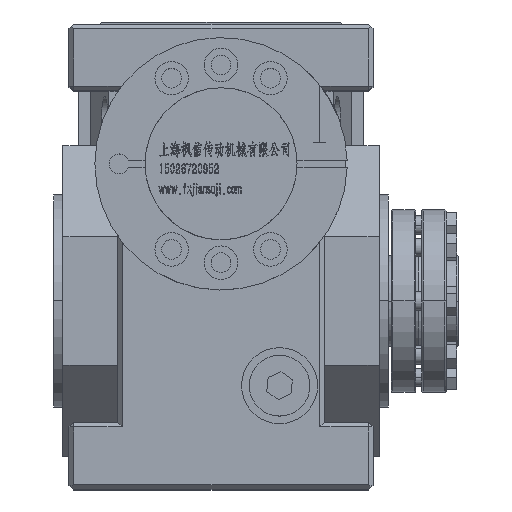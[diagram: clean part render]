
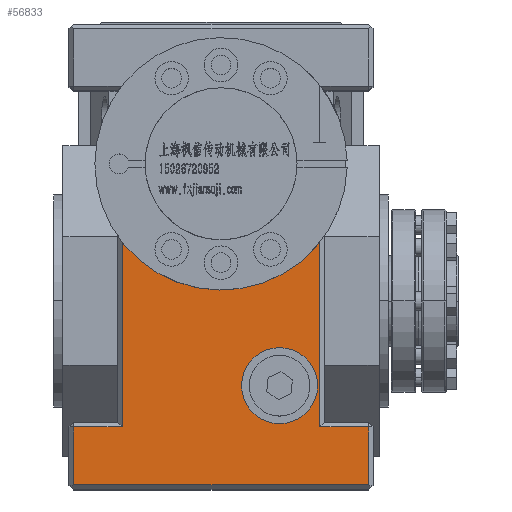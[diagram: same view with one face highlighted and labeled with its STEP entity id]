
A CAD part, top view. The second image highlights one B-rep face of the part: STEP entity #56833.
In plain terms, the highlighted planar face has unit normal (0, 0, 1).
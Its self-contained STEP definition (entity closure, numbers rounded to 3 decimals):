
#3700 = FACE_OUTER_BOUND ( 'NONE', #8288, .T. ) ;
#5028 = ORIENTED_EDGE ( 'NONE', *, *, #23677, .F. ) ;
#5403 = CARTESIAN_POINT ( 'NONE',  ( -48.5, -41.5, 68.5 ) ) ;
#8197 = CARTESIAN_POINT ( 'NONE',  ( 32.5, -41.5, 68.5 ) ) ;
#8288 = EDGE_LOOP ( 'NONE', ( #52733, #90536, #78176, #47304, #95618, #30982, #48068, #88900 ) ) ;
#9286 = CARTESIAN_POINT ( 'NONE',  ( -32.5, 20.005, 68.5 ) ) ;
#9876 = DIRECTION ( 'NONE',  ( 1., 0., 0. ) ) ;
#12553 = EDGE_CURVE ( 'NONE', #88980, #80879, #85177, .T. ) ;
#12885 = CARTESIAN_POINT ( 'NONE',  ( 50., 91., 68.5 ) ) ;
#15251 = CARTESIAN_POINT ( 'NONE',  ( 50., -41.5, 68.5 ) ) ;
#15684 = LINE ( 'NONE', #39353, #37947 ) ;
#16237 = CARTESIAN_POINT ( 'NONE',  ( -48.5, -60.5, 68.5 ) ) ;
#16596 = DIRECTION ( 'NONE',  ( 0., 0., 1. ) ) ;
#17357 = CARTESIAN_POINT ( 'NONE',  ( 50., -60.5, 68.5 ) ) ;
#18255 = AXIS2_PLACEMENT_3D ( 'NONE', #109527, #56803, #81481 ) ;
#18417 = DIRECTION ( 'NONE',  ( 0., -1., 0. ) ) ;
#20041 = AXIS2_PLACEMENT_3D ( 'NONE', #62430, #16596, #78486 ) ;
#21000 = LINE ( 'NONE', #100096, #57875 ) ;
#21054 = CIRCLE ( 'NONE', #85146, 41. ) ;
#23364 = EDGE_CURVE ( 'NONE', #102412, #59784, #52803, .T. ) ;
#23677 = EDGE_CURVE ( 'NONE', #29196, #65294, #45619, .T. ) ;
#24301 = EDGE_CURVE ( 'NONE', #65294, #29196, #109838, .T. ) ;
#24432 = DIRECTION ( 'NONE',  ( 0., -1., 0. ) ) ;
#25567 = EDGE_CURVE ( 'NONE', #113060, #55986, #42159, .T. ) ;
#28759 = CARTESIAN_POINT ( 'NONE',  ( 48.5, -60.5, 68.5 ) ) ;
#29196 = VERTEX_POINT ( 'NONE', #47518 ) ;
#30982 = ORIENTED_EDGE ( 'NONE', *, *, #92184, .F. ) ;
#36407 = CARTESIAN_POINT ( 'NONE',  ( 48.5, -41.5, 68.5 ) ) ;
#37947 = VECTOR ( 'NONE', #56569, 1000. ) ;
#39353 = CARTESIAN_POINT ( 'NONE',  ( 32.5, 22.087, 68.5 ) ) ;
#41914 = VECTOR ( 'NONE', #66289, 1000. ) ;
#42159 = LINE ( 'NONE', #83500, #60500 ) ;
#45619 = CIRCLE ( 'NONE', #20041, 12.5 ) ;
#47304 = ORIENTED_EDGE ( 'NONE', *, *, #12553, .T. ) ;
#47518 = CARTESIAN_POINT ( 'NONE',  ( 6.753, -27.925, 68.5 ) ) ;
#48068 = ORIENTED_EDGE ( 'NONE', *, *, #23364, .T. ) ;
#52733 = ORIENTED_EDGE ( 'NONE', *, *, #25567, .T. ) ;
#52803 = LINE ( 'NONE', #105556, #52843 ) ;
#52843 = VECTOR ( 'NONE', #18417, 1000. ) ;
#55986 = VERTEX_POINT ( 'NONE', #16237 ) ;
#56569 = DIRECTION ( 'NONE',  ( 0., 1., 0. ) ) ;
#56803 = DIRECTION ( 'NONE',  ( 0., 0., 1. ) ) ;
#56833 = ADVANCED_FACE ( 'NONE', ( #84516, #3700 ), #65619, .F. ) ;
#57875 = VECTOR ( 'NONE', #83470, 1000. ) ;
#59518 = CARTESIAN_POINT ( 'NONE',  ( -32.5, -41.5, 68.5 ) ) ;
#59784 = VERTEX_POINT ( 'NONE', #59518 ) ;
#60500 = VECTOR ( 'NONE', #24432, 1000. ) ;
#61078 = EDGE_LOOP ( 'NONE', ( #79536, #5028 ) ) ;
#61606 = VERTEX_POINT ( 'NONE', #68473 ) ;
#62430 = CARTESIAN_POINT ( 'NONE',  ( 19.253, -27.925, 68.5 ) ) ;
#64392 = DIRECTION ( 'NONE',  ( 0., 1., 0. ) ) ;
#65074 = DIRECTION ( 'NONE',  ( -1., 0., 0. ) ) ;
#65294 = VERTEX_POINT ( 'NONE', #110924 ) ;
#65619 = PLANE ( 'NONE',  #94883 ) ;
#66289 = DIRECTION ( 'NONE',  ( -1., 0., 0. ) ) ;
#68473 = CARTESIAN_POINT ( 'NONE',  ( 32.5, 20.005, 68.5 ) ) ;
#70874 = VECTOR ( 'NONE', #9876, 1000. ) ;
#71058 = CARTESIAN_POINT ( 'NONE',  ( 0., 45., 68.5 ) ) ;
#72760 = DIRECTION ( 'NONE',  ( 0., 1., 0. ) ) ;
#78176 = ORIENTED_EDGE ( 'NONE', *, *, #95500, .T. ) ;
#78486 = DIRECTION ( 'NONE',  ( 1., 0., 0. ) ) ;
#79259 = LINE ( 'NONE', #17357, #70874 ) ;
#79536 = ORIENTED_EDGE ( 'NONE', *, *, #24301, .F. ) ;
#80220 = DIRECTION ( 'NONE',  ( 0., 0., 1. ) ) ;
#80879 = VERTEX_POINT ( 'NONE', #8197 ) ;
#81028 = LINE ( 'NONE', #90202, #92592 ) ;
#81481 = DIRECTION ( 'NONE',  ( 1., 0., 0. ) ) ;
#83470 = DIRECTION ( 'NONE',  ( -1., 0., 0. ) ) ;
#83500 = CARTESIAN_POINT ( 'NONE',  ( -48.5, 91., 68.5 ) ) ;
#84516 = FACE_BOUND ( 'NONE', #61078, .T. ) ;
#85146 = AXIS2_PLACEMENT_3D ( 'NONE', #71058, #80220, #72760 ) ;
#85177 = LINE ( 'NONE', #15251, #41914 ) ;
#88900 = ORIENTED_EDGE ( 'NONE', *, *, #96571, .T. ) ;
#88980 = VERTEX_POINT ( 'NONE', #36407 ) ;
#90202 = CARTESIAN_POINT ( 'NONE',  ( 48.5, -40., 68.5 ) ) ;
#90328 = VERTEX_POINT ( 'NONE', #28759 ) ;
#90536 = ORIENTED_EDGE ( 'NONE', *, *, #97976, .T. ) ;
#92184 = EDGE_CURVE ( 'NONE', #102412, #61606, #21054, .T. ) ;
#92592 = VECTOR ( 'NONE', #64392, 1000. ) ;
#94883 = AXIS2_PLACEMENT_3D ( 'NONE', #12885, #108640, #65074 ) ;
#95500 = EDGE_CURVE ( 'NONE', #90328, #88980, #81028, .T. ) ;
#95618 = ORIENTED_EDGE ( 'NONE', *, *, #98759, .T. ) ;
#96571 = EDGE_CURVE ( 'NONE', #59784, #113060, #21000, .T. ) ;
#97976 = EDGE_CURVE ( 'NONE', #55986, #90328, #79259, .T. ) ;
#98759 = EDGE_CURVE ( 'NONE', #80879, #61606, #15684, .T. ) ;
#100096 = CARTESIAN_POINT ( 'NONE',  ( -50., -41.5, 68.5 ) ) ;
#102412 = VERTEX_POINT ( 'NONE', #9286 ) ;
#105556 = CARTESIAN_POINT ( 'NONE',  ( -32.5, -40., 68.5 ) ) ;
#108640 = DIRECTION ( 'NONE',  ( 0., 0., -1. ) ) ;
#109527 = CARTESIAN_POINT ( 'NONE',  ( 19.253, -27.925, 68.5 ) ) ;
#109838 = CIRCLE ( 'NONE', #18255, 12.5 ) ;
#110924 = CARTESIAN_POINT ( 'NONE',  ( 31.753, -27.925, 68.5 ) ) ;
#113060 = VERTEX_POINT ( 'NONE', #5403 ) ;
